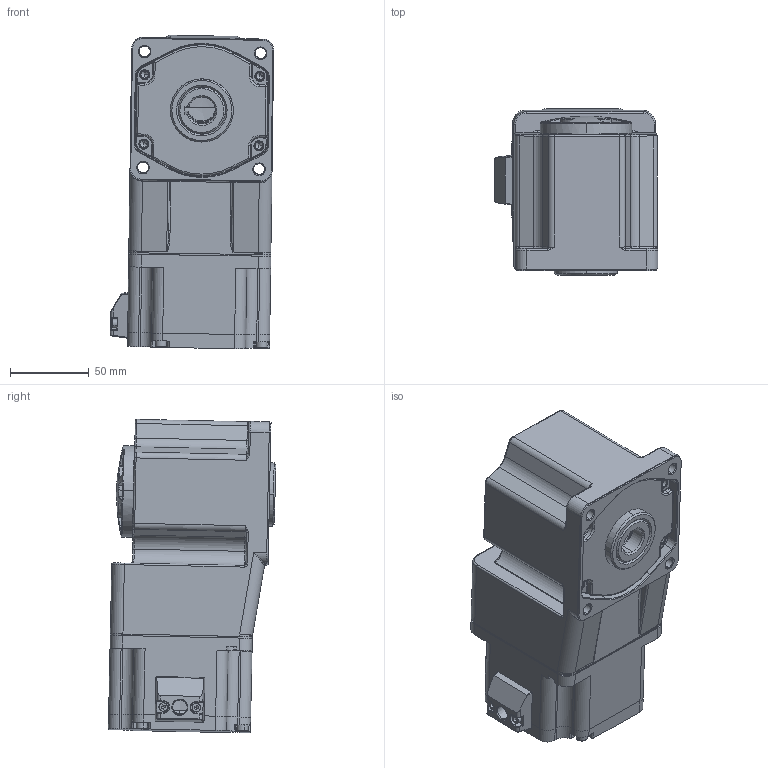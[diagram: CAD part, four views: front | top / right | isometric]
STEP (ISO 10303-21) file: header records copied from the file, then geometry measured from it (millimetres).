
FILE_DESCRIPTION(('HOOPS Exchange Step'),'2;1');
FILE_NAME('D:/ModelConvertServices/Model.003/TZT.New3D003/output/946a69fe-7cab-450e-a997-79fb0bb3811c/Z5BLD120W配5GURC齿轮箱整机.step','2026-07-14T10:08:09+08:00',('SYSTEM'),('Unknown organisation'),'HOOPS Exchange 2024.3','HOOPS Exchange','Unknown authorisation');
FILE_SCHEMA( ('AP203_CONFIGURATION_CONTROLLED_3D_DESIGN_OF_MECHANICAL_PARTS_AND_ASSEMBLIES_MIM_LF') );
Length unit declared in the file: millimetre
Products named in the file (15): Z5BLD______; Z5BLD____; M4____; PRODUCT_34299; M3____; 90___________ASM; 90LC_________ASM; _90LC____; BREP_WITH_VOIDS_95; MANIFOLD_SOLID_BREP_1022; MANIFOLD_SOLID_BREP_1026; MANIFOLD_SOLID_BREP_1028; ADMI1C15WF3F_ASM; 5IK40RGU-C_5GU3K_180K_RC_ASM; 90LC__ASM
Assembly tree (18 placements, depth 4):
  90LC__ASM
    90LC_________ASM
      90___________ASM
        Z5BLD______
        Z5BLD____
        M4____  x4
        PRODUCT_34299
        M3____  x2
    _90LC____
    5IK40RGU-C_5GU3K_180K_RC_ASM
      ADMI1C15WF3F_ASM
        BREP_WITH_VOIDS_95
        MANIFOLD_SOLID_BREP_1022
        MANIFOLD_SOLID_BREP_1026
        MANIFOLD_SOLID_BREP_1028
Bounding box: 103.53 x 106.03 x 198.46 mm (x, y, z)
Volume: 887318.5 mm3; surface area: 219201 mm2
Topology: 13 solids, 15 shells, 2121 faces, 5266 edges, 3105 vertices
Faces by surface type: cylinder 684, plane 435, torus 364, cone 333, bspline 170, sphere 135
Entity records: 77647 total; most frequent: CARTESIAN_POINT 29088, DIRECTION 10790, ORIENTED_EDGE 9944, EDGE_CURVE 4972, AXIS2_PLACEMENT_3D 4535, VERTEX_POINT 3011, CIRCLE 2649, EDGE_LOOP 2145
